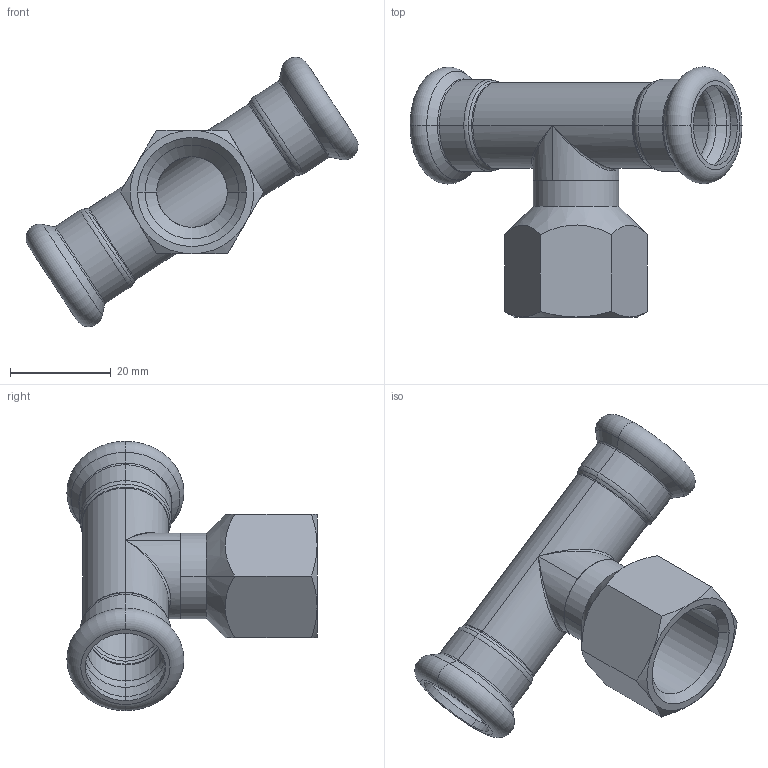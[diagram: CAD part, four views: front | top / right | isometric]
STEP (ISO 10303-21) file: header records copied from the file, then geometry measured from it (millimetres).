
FILE_DESCRIPTION (( 'STEP AP203' ), '1' );
FILE_NAME ('×°ÅäÌå1.STEP', '2019-01-10T02:04:43', ( '' ), ( '' ), 'SwSTEP 2.0', 'SolidWorks 2015', '' );
FILE_SCHEMA (( 'CONFIG_CONTROL_DESIGN' ));
Length unit declared in the file: millimetre
Products named in the file (3): 蚾饜极1; ITCT15｡ﾁ?; ITC-¢ñ-03-15¡Á?
Assembly tree (2 placements, depth 2):
  蚾饜极1
    ITC-¢ñ-03-15¡Á?
    ITCT15｡ﾁ?
Bounding box: 65.81 x 49.6 x 53.41 mm (x, y, z)
Volume: 11085.7 mm3; surface area: 11668.9 mm2
Topology: 2 solids, 2 shells, 105 faces, 220 edges, 112 vertices
Faces by surface type: torus 32, cone 28, cylinder 28, plane 13, bspline 4
Entity records: 3409 total; most frequent: CARTESIAN_POINT 912, DIRECTION 526, ORIENTED_EDGE 424, AXIS2_PLACEMENT_3D 234, EDGE_CURVE 212, CIRCLE 128, VERTEX_POINT 112, EDGE_LOOP 112
